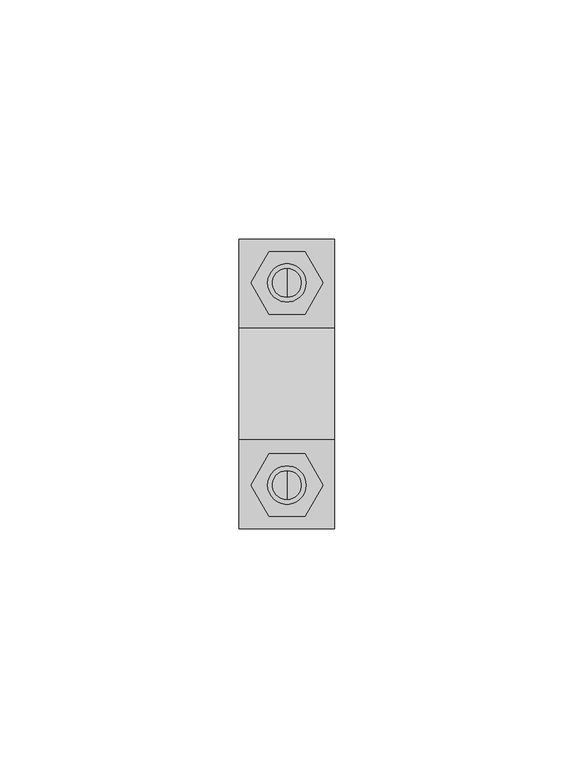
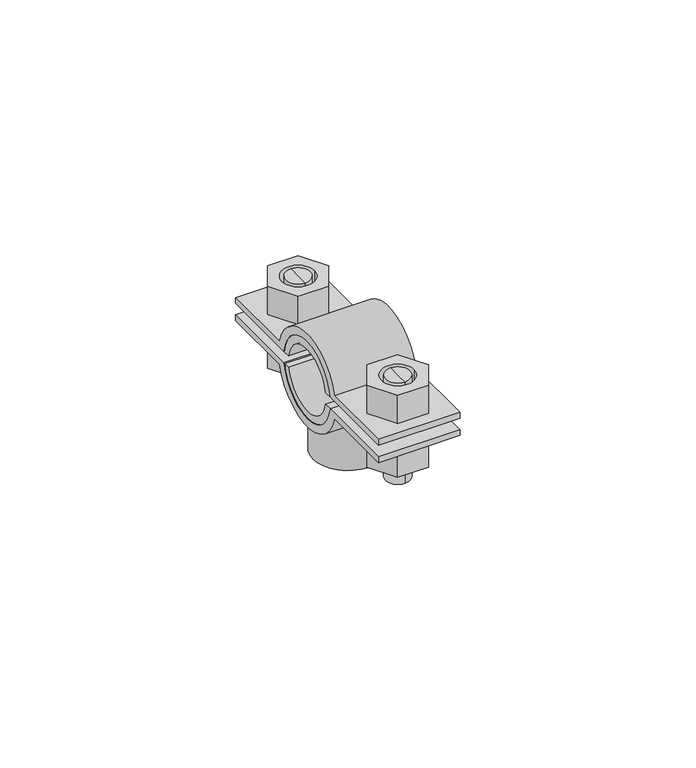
"""IFC4 building model written with IfcOpenShell, lengths in millimetres: valve geometry, Superfix DG2 Clamp Extra + : Superfix DG2 Clamp Extra +."""

import ifcopenshell
import ifcopenshell.guid

model = None  # the IFC model being written
_history = None  # IfcOwnerHistory: only IFC2X3 demands one
_inside = {}  # id of a spatial element -> (the spatial element, [elements in it])
_under = {}  # id of a project, library or spatial element -> (it, [spatial elements below it])
_declared = {}  # id of a project -> (the project, [libraries it declares])
_typed = {}  # id of a type object -> (the type object, [elements of that type])
_made_of = {}  # id of a material, layer set ... -> (it, [elements and type objects made of it])


def new_model(schema):
    """Start an empty IFC model of exactly this schema.

    Asked for "IFC4X3", IfcOpenShell would pick the latest addendum, in which some entities
    have other attributes; the version numbers below select the first issue.
    IFC2X3 requires an IfcOwnerHistory on every rooted entity: one is made here for all.
    """
    global model, _history
    if schema == "IFC4X3":
        model = ifcopenshell.file(schema_version=(4, 3, 0, 0))
    else:
        model = ifcopenshell.file(schema=schema)
    _inside.clear()
    _under.clear()
    _declared.clear()
    _typed.clear()
    _made_of.clear()
    _history = None
    if model.schema == "IFC2X3":
        org = make("IfcOrganization", Name="unknown")
        user = make(
            "IfcPersonAndOrganization",
            ThePerson=make("IfcPerson", FamilyName="unknown"),
            TheOrganization=org,
        )
        app = make(
            "IfcApplication",
            ApplicationDeveloper=org,
            Version="unknown",
            ApplicationFullName="unknown",
            ApplicationIdentifier="unknown",
        )
        _history = make(
            "IfcOwnerHistory",
            OwningUser=user,
            OwningApplication=app,
            ChangeAction="ADDED",
            CreationDate=0,
        )
    return model


def make(cls, **values):
    """One entity of the class cls with the attributes given. An attribute that is None is left unset."""
    return model.create_entity(
        cls, **{name: value for name, value in values.items() if value is not None}
    )


def rooted(cls, **values):
    """An entity with a GlobalId (a new one), such as an element, a storey or a relation."""
    return make(cls, GlobalId=ifcopenshell.guid.new(), OwnerHistory=_history, **values)


def si_unit(unit_type, name, prefix=None):
    """IfcSIUnit, for example si_unit("LENGTHUNIT", "METRE", prefix="MILLI")."""
    return make("IfcSIUnit", UnitType=unit_type, Prefix=prefix, Name=name)


def assignment(units):
    """IfcUnitAssignment: the units of a project."""
    return None if units is None else make("IfcUnitAssignment", Units=units)


def point(xyz):
    """IfcCartesianPoint."""
    return None if xyz is None else make("IfcCartesianPoint", Coordinates=xyz)


def direction(xyz):
    """IfcDirection."""
    return None if xyz is None else make("IfcDirection", DirectionRatios=xyz)


def frame(location, z_axis=None, x_axis=None):
    """IfcAxis2Placement3D, a coordinate frame: its origin and axes. An axis left out is left unset."""
    return make(
        "IfcAxis2Placement3D",
        Location=point(location),
        Axis=direction(z_axis),
        RefDirection=direction(x_axis),
    )


def frame_2d(location, x_axis=None):
    """IfcAxis2Placement2D, a coordinate frame in the plane: its origin and x axis."""
    return make(
        "IfcAxis2Placement2D", Location=point(location), RefDirection=direction(x_axis)
    )


def origin():
    """The frame at (0, 0, 0) with its axes left unset."""
    return frame((0.0, 0.0, 0.0))


def origin_2d():
    """The frame at (0, 0) in the plane with its x axis left unset."""
    return frame_2d((0.0, 0.0))


def place(relative_to, where):
    """IfcLocalPlacement: puts the frame where relative to a parent placement (None: the world)."""
    return make(
        "IfcLocalPlacement", PlacementRelTo=relative_to, RelativePlacement=where
    )


def context(
    kind, dimensions, precision=None, world=None, true_north=None, identifier=None
):
    """IfcGeometricRepresentationContext, for example the 3D "Model" context."""
    return make(
        "IfcGeometricRepresentationContext",
        ContextIdentifier=identifier,
        ContextType=kind,
        CoordinateSpaceDimension=dimensions,
        Precision=precision,
        WorldCoordinateSystem=world,
        TrueNorth=true_north,
    )


def project(units=None, contexts=None):
    """IfcProject with its units and contexts."""
    return rooted(
        "IfcProject",
        Name="project",
        RepresentationContexts=contexts,
        UnitsInContext=assignment(units),
    )


def spatial(cls, under=None, at=None, **own):
    """A site, building, storey or space (cls), placed at a placement, below another one or the project."""
    s = rooted(cls, ObjectPlacement=at, **own)
    if under is not None:
        _under.setdefault(under.id(), (under, []))[1].append(s)
    return s


def polyline(points):
    """IfcPolyline through the points."""
    return make("IfcPolyline", Points=[point(p) for p in points])


def circle_curve(where, radius):
    """IfcCircle in the frame where."""
    return make("IfcCircle", Position=where, Radius=radius)


def trimmed(basis, trim1, trim2, sense, master):
    """IfcTrimmedCurve: the piece of a basis curve between two trims."""
    return make(
        "IfcTrimmedCurve",
        BasisCurve=basis,
        Trim1=trim1,
        Trim2=trim2,
        SenseAgreement=sense,
        MasterRepresentation=master,
    )


def segment(curve, same_sense, transition):
    """IfcCompositeCurveSegment."""
    return make(
        "IfcCompositeCurveSegment",
        Transition=transition,
        SameSense=same_sense,
        ParentCurve=curve,
    )


def composite_curve(segments, self_intersect=None):
    """IfcCompositeCurve: segments joined end to end."""
    return make("IfcCompositeCurve", Segments=segments, SelfIntersect=self_intersect)


def outline(outer, holes=None, kind="AREA"):
    """IfcArbitraryClosedProfileDef: a profile drawn as a closed curve; with holes, ...WithVoids."""
    if holes is None:
        return make("IfcArbitraryClosedProfileDef", ProfileType=kind, OuterCurve=outer)
    return make(
        "IfcArbitraryProfileDefWithVoids",
        ProfileType=kind,
        OuterCurve=outer,
        InnerCurves=holes,
    )


def extrude(swept, where, along, depth):
    """IfcExtrudedAreaSolid: the profile swept, set in the frame where, extruded along a direction by depth."""
    return make(
        "IfcExtrudedAreaSolid",
        SweptArea=swept,
        Position=where,
        ExtrudedDirection=direction(along),
        Depth=depth,
    )


def shape(context_of_items, identifier, shape_type, items):
    """IfcShapeRepresentation: the items that make up one representation, for example the "Body"."""
    return make(
        "IfcShapeRepresentation",
        ContextOfItems=context_of_items,
        RepresentationIdentifier=identifier,
        RepresentationType=shape_type,
        Items=items,
    )


def source(mapping_origin, context_of_items, identifier, shape_type, items):
    """IfcRepresentationMap: a shape defined once, which mapped items show again and again."""
    return make(
        "IfcRepresentationMap",
        MappingOrigin=mapping_origin,
        MappedRepresentation=shape(context_of_items, identifier, shape_type, items),
    )


def transform(
    local_origin,
    x_axis=None,
    y_axis=None,
    z_axis=None,
    scale=None,
    scale2=None,
    scale3=None,
    uniform=True,
):
    """IfcCartesianTransformationOperator3D, or its non-uniform kind. x_axis, y_axis, z_axis: its Axis1, 2, 3."""
    if uniform:
        return make(
            "IfcCartesianTransformationOperator3D",
            Axis1=direction(x_axis),
            Axis2=direction(y_axis),
            LocalOrigin=point(local_origin),
            Scale=scale,
            Axis3=direction(z_axis),
        )
    return make(
        "IfcCartesianTransformationOperator3DnonUniform",
        Axis1=direction(x_axis),
        Axis2=direction(y_axis),
        LocalOrigin=point(local_origin),
        Scale=scale,
        Axis3=direction(z_axis),
        Scale2=scale2,
        Scale3=scale3,
    )


def mapped(mapping_source, mapping_target):
    """IfcMappedItem: shows the shape of a source again, moved by a transform."""
    return make(
        "IfcMappedItem", MappingSource=mapping_source, MappingTarget=mapping_target
    )


def made_of(thing, what):
    """Note that an element or type object is made of a material, layer set ...; save() writes the relation."""
    if what is not None:
        _made_of.setdefault(what.id(), (what, []))[1].append(thing)
    return thing


def element(
    cls,
    number,
    at=None,
    inside=None,
    cuts=None,
    type_object=None,
    material=None,
    context=None,
    identifier="Body",
    shape_type=None,
    held_by="IfcProductDefinitionShape",
    body=None,
    shapes=None,
    **own,
):
    """One element of the class cls, such as IfcWall. Its Tag is "e" and its number.

    at: its placement. inside: the storey or other place that contains it. cuts: it is an
    opening in that element (IfcRelVoidsElement). A single representation is given by context,
    identifier, shape_type and body (its items); several are given by shapes. held_by: the class
    of the entity that holds the representations. save() writes the other relations.
    """
    e = rooted(cls, Tag="e%d" % number, ObjectPlacement=at, **own)
    if body is not None:
        shapes = [shape(context, identifier, shape_type, body)]
    if shapes is not None:
        e.Representation = make(held_by, Representations=shapes)
    if inside is not None:
        _inside.setdefault(inside.id(), (inside, []))[1].append(e)
    if cuts is not None:
        rooted(
            "IfcRelVoidsElement", RelatingBuildingElement=cuts, RelatedOpeningElement=e
        )
    if type_object is not None:
        _typed.setdefault(type_object.id(), (type_object, []))[1].append(e)
    return made_of(e, material)


def aggregate(whole, parts):
    """IfcRelAggregates: a whole, such as a stair, and the parts it consists of."""
    return rooted("IfcRelAggregates", RelatingObject=whole, RelatedObjects=parts)


def save(model, path):
    """Write the relations noted so far, then the file.

    IfcRelAggregates (storeys below a building ...), IfcRelContainedInSpatialStructure (elements
    in a storey), IfcRelDefinesByType, IfcRelAssociatesMaterial and IfcRelDeclares: one each for
    every whole, place, type object, material and project.
    """
    for whole, parts in _under.values():
        aggregate(whole, parts)
    for where, things in _inside.values():
        rooted(
            "IfcRelContainedInSpatialStructure",
            RelatedElements=things,
            RelatingStructure=where,
        )
    for kind, things in _typed.values():
        rooted("IfcRelDefinesByType", RelatedObjects=things, RelatingType=kind)
    for what, things in _made_of.values():
        rooted("IfcRelAssociatesMaterial", RelatedObjects=things, RelatingMaterial=what)
    for by, libraries in _declared.values():
        rooted("IfcRelDeclares", RelatingContext=by, RelatedDefinitions=libraries)
    model.write(path)


def plane_surface(at):
    """IfcPlane: the flat surface through the origin of the frame at, square to its z axis."""
    return make("IfcPlane", Position=at)


def cylinder_surface(at, radius):
    """IfcCylindricalSurface: all points at the distance radius from the z axis of the frame at."""
    return make("IfcCylindricalSurface", Position=at, Radius=radius)


def advanced_brep(points, edges, surfaces, faces):
    """IfcAdvancedBrep: a solid bounded by faces that lie on surfaces and meet in shared edges.

    An edge is (start, end): straight between two places in points (the first is 0);
    or (start, end, curve); or (start, end, curve, False) where it runs against its curve.
    A face is (place in surfaces, loops), or (place, loops, False) where it looks against
    its surface's normal. A loop lists edges by number (the first is 1), with a minus sign
    where the edge is run from its end to its start. The first loop is the outer one.
    """
    corners = [point(p) for p in points]
    vertices = [make("IfcVertexPoint", VertexGeometry=c) for c in corners]
    made = []
    for start, end, *more in edges:
        made.append(
            make(
                "IfcEdgeCurve",
                EdgeStart=vertices[start],
                EdgeEnd=vertices[end],
                EdgeGeometry=more[0] if more else make("IfcPolyline", Points=[corners[start], corners[end]]),
                SameSense=more[1] if len(more) > 1 else True,
            )
        )
    hull = []
    for where, loops, *sense in faces:
        bounds = []
        for j, loop in enumerate(loops):
            ring = [make("IfcOrientedEdge", EdgeElement=made[abs(k) - 1], Orientation=k > 0) for k in loop]
            bounds.append(
                make(
                    "IfcFaceOuterBound" if j == 0 else "IfcFaceBound",
                    Bound=make("IfcEdgeLoop", EdgeList=ring),
                    Orientation=True,
                )
            )
        hull.append(make("IfcAdvancedFace", Bounds=bounds, FaceSurface=surfaces[where], SameSense=sense[0] if sense else True))
    return make("IfcAdvancedBrep", Outer=make("IfcClosedShell", CfsFaces=hull))


def valve_dc9e7541(model_context):
    return source(origin(), model_context, "Body", "SolidModel", [
        advanced_brep(
        [(0.0, 24.125, 334.4), (0.0, 18.125, 334.4), (0.0, 18.125, 348.5), (0.0, 24.125, 348.5), (0.0, 21.125, 334.4)],
        [
            (0, 1, circle_curve(frame((0.0, 21.125, 334.4), z_axis=(0.0, 0.0, 1.0), x_axis=(0.0, 1.0, 0.0)), 3.0)),
            (1, 2),
            (2, 3, circle_curve(frame((0.0, 21.125, 348.5), z_axis=(0.0, 0.0, -1.0), x_axis=(0.0, 1.0, 0.0)), 3.0)),
            (3, 0),
            (1, 0, circle_curve(frame((0.0, 21.125, 334.4), z_axis=(0.0, 0.0, 1.0), x_axis=(0.0, 1.0, 0.0)), 3.0)),
            (3, 2, circle_curve(frame((0.0, 21.125, 348.5), z_axis=(0.0, 0.0, -1.0), x_axis=(0.0, 1.0, 0.0)), 3.0)),
            (0, 4),
            (4, 1),
        ],
        [
            cylinder_surface(frame((0.0, 21.125, 348.2806094), z_axis=(0.0, 0.0, 1.0), x_axis=(0.0, 1.0, 0.0)), 3.0),
            plane_surface(frame((0.0, 21.125, 334.4), z_axis=(0.0, 0.0, -1.0), x_axis=(0.0, 1.0, 0.0))),
            plane_surface(frame((13.75, -30.25, 348.5), z_axis=(0.0, 0.0, 1.0), x_axis=(-1.0, 0.0, 0.0))),
        ],
        [
            (0, [[1, 2, 3, 4]]),
            (0, [[5, -4, 6, -2]]),
            (1, [[-1, 7, 8]]),
            (1, [[-5, -8, -7]]),
            (2, [[-3, -6]]),
        ],
    ),
        advanced_brep(
        [(0.0, 18.125, 360.6), (0.0, 24.125, 360.6), (0.0, 24.125, 351.5), (0.0, 18.125, 351.5), (0.0, 21.125, 360.6)],
        [
            (0, 1, circle_curve(frame((0.0, 21.125, 360.6), z_axis=(0.0, 0.0, -1.0), x_axis=(0.0, 1.0, 0.0)), 3.0)),
            (1, 2),
            (2, 3, circle_curve(frame((0.0, 21.125, 351.5), z_axis=(0.0, 0.0, 1.0), x_axis=(0.0, 1.0, 0.0)), 3.0)),
            (3, 0),
            (1, 0, circle_curve(frame((0.0, 21.125, 360.6), z_axis=(0.0, 0.0, -1.0), x_axis=(0.0, 1.0, 0.0)), 3.0)),
            (3, 2, circle_curve(frame((0.0, 21.125, 351.5), z_axis=(0.0, 0.0, 1.0), x_axis=(0.0, 1.0, 0.0)), 3.0)),
            (0, 4),
            (4, 1),
        ],
        [
            cylinder_surface(frame((0.0, 21.125, 348.2806094), z_axis=(0.0, 0.0, 1.0), x_axis=(0.0, 1.0, 0.0)), 3.0),
            plane_surface(frame((0.0, 21.125, 360.6), z_axis=(0.0, 0.0, 1.0), x_axis=(0.0, 1.0, 0.0))),
            plane_surface(frame((13.75, 30.25, 351.5), z_axis=(0.0, 0.0, -1.0), x_axis=(-1.0, 0.0, 0.0))),
        ],
        [
            (0, [[1, 2, 3, 4]]),
            (0, [[5, -4, 6, -2]]),
            (1, [[-1, 7, 8]]),
            (1, [[-5, -8, -7]]),
            (2, [[-3, -6]]),
        ],
    ),
        advanced_brep(
        [(0.0, -24.125, 360.6), (0.0, -18.125, 360.6), (0.0, -18.125, 351.5), (0.0, -24.125, 351.5), (0.0, -21.125, 360.6)],
        [
            (0, 1, circle_curve(frame((0.0, -21.125, 360.6), z_axis=(0.0, 0.0, -1.0), x_axis=(0.0, -1.0, 0.0)), 3.0)),
            (1, 2),
            (2, 3, circle_curve(frame((0.0, -21.125, 351.5), z_axis=(0.0, 0.0, 1.0), x_axis=(0.0, -1.0, 0.0)), 3.0)),
            (3, 0),
            (1, 0, circle_curve(frame((0.0, -21.125, 360.6), z_axis=(0.0, 0.0, -1.0), x_axis=(0.0, -1.0, 0.0)), 3.0)),
            (3, 2, circle_curve(frame((0.0, -21.125, 351.5), z_axis=(0.0, 0.0, 1.0), x_axis=(0.0, -1.0, 0.0)), 3.0)),
            (0, 4),
            (4, 1),
        ],
        [
            cylinder_surface(frame((0.0, -21.125, 348.2806094), z_axis=(0.0, 0.0, -1.0), x_axis=(0.0, -1.0, 0.0)), 3.0),
            plane_surface(frame((0.0, -21.125, 360.6), z_axis=(0.0, 0.0, 1.0), x_axis=(0.0, -1.0, 0.0))),
            plane_surface(frame((13.75, 30.25, 351.5), z_axis=(0.0, 0.0, -1.0), x_axis=(-1.0, 0.0, 0.0))),
        ],
        [
            (0, [[1, 2, 3, 4]]),
            (0, [[5, -4, 6, -2]]),
            (1, [[-1, 7, 8]]),
            (1, [[-5, -8, -7]]),
            (2, [[-3, -6]]),
        ],
    ),
        advanced_brep(
        [(0.0, -18.125, 334.4), (0.0, -24.125, 334.4), (0.0, -24.125, 348.5), (0.0, -18.125, 348.5), (0.0, -21.125, 334.4)],
        [
            (0, 1, circle_curve(frame((0.0, -21.125, 334.4), z_axis=(0.0, 0.0, 1.0), x_axis=(0.0, -1.0, 0.0)), 3.0)),
            (1, 2),
            (2, 3, circle_curve(frame((0.0, -21.125, 348.5), z_axis=(0.0, 0.0, -1.0), x_axis=(0.0, -1.0, 0.0)), 3.0)),
            (3, 0),
            (1, 0, circle_curve(frame((0.0, -21.125, 334.4), z_axis=(0.0, 0.0, 1.0), x_axis=(0.0, -1.0, 0.0)), 3.0)),
            (3, 2, circle_curve(frame((0.0, -21.125, 348.5), z_axis=(0.0, 0.0, -1.0), x_axis=(0.0, -1.0, 0.0)), 3.0)),
            (0, 4),
            (4, 1),
        ],
        [
            cylinder_surface(frame((0.0, -21.125, 348.2806094), z_axis=(0.0, 0.0, -1.0), x_axis=(0.0, -1.0, 0.0)), 3.0),
            plane_surface(frame((0.0, -21.125, 334.4), z_axis=(0.0, 0.0, -1.0), x_axis=(0.0, -1.0, 0.0))),
            plane_surface(frame((13.75, -30.25, 348.5), z_axis=(0.0, 0.0, 1.0), x_axis=(-1.0, 0.0, 0.0))),
        ],
        [
            (0, [[1, 2, 3, 4]]),
            (0, [[5, -4, 6, -2]]),
            (1, [[-1, 7, 8]]),
            (1, [[-5, -8, -7]]),
            (2, [[-3, -6]]),
        ],
    ),
        extrude(outline(composite_curve([segment(trimmed(circle_curve(frame_2d((0.0, 350.0)), 10.0), [point((-9.88686, 348.5))], [point((9.88686, 348.5))], True, "CARTESIAN"), True, "CONTINUOUS"), segment(polyline([(9.88686, 348.5), (30.25, 348.5), (30.25, 347.0), (11.61895, 347.0)]), True, "CONTINUOUS"), segment(trimmed(circle_curve(frame_2d((0.0, 350.0)), 12.0), [point((11.61895, 347.0))], [point((-11.61895, 347.0))], False, "CARTESIAN"), True, "CONTINUOUS"), segment(polyline([(-11.61895, 347.0), (-30.25, 347.0), (-30.25, 348.5), (-9.88686, 348.5)]), True, "CONTINUOUS")], self_intersect=False)), frame((-10.0, 0.0, 0.0), z_axis=(1.0, 0.0, 0.0), x_axis=(0.0, 1.0, 0.0)), (0.0, 0.0, 1.0), 20.0),
        extrude(outline(composite_curve([segment(trimmed(circle_curve(frame_2d((0.0, 350.0)), 10.0), [point((9.88686, 351.5))], [point((-9.88686, 351.5))], True, "CARTESIAN"), True, "CONTINUOUS"), segment(polyline([(-9.88686, 351.5), (-30.25, 351.5), (-30.25, 353.0), (-11.61895, 353.0)]), True, "CONTINUOUS"), segment(trimmed(circle_curve(frame_2d((0.0, 350.0)), 12.0), [point((-11.61895, 353.0))], [point((11.61895, 353.0))], False, "CARTESIAN"), True, "CONTINUOUS"), segment(polyline([(11.61895, 353.0), (30.25, 353.0), (30.25, 351.5), (9.88686, 351.5)]), True, "CONTINUOUS")], self_intersect=False)), frame((-10.0, 0.0, 0.0), z_axis=(1.0, 0.0, 0.0), x_axis=(0.0, 1.0, 0.0)), (0.0, 0.0, 1.0), 20.0),
        extrude(outline(polyline([(7.5055535, -21.125), (3.7527767, -27.625), (-3.7527767, -27.625), (-7.5055535, -21.125), (-3.7527767, -14.625), (3.7527767, -14.625), (7.5055535, -21.125)]), holes=[composite_curve([segment(trimmed(circle_curve(frame_2d((0.0, -21.125)), 4.0), [point((4.0, -21.125))], [point((-4.0, -21.125))], True, "CARTESIAN"), True, "CONTINUOUS"), segment(trimmed(circle_curve(frame_2d((0.0, -21.125)), 4.0), [point((-4.0, -21.125))], [point((4.0, -21.125))], True, "CARTESIAN"), True, "CONTINUOUS")], self_intersect=False)]), frame((0.0, 0.0, 353.0), z_axis=(0.0, 0.0, 1.0), x_axis=(1.0, 0.0, 0.0)), (0.0, 0.0, 1.0), 7.6),
        extrude(outline(polyline([(7.5055535, 21.125), (3.7527767, 14.625), (-3.7527767, 14.625), (-7.5055535, 21.125), (-3.7527767, 27.625), (3.7527767, 27.625), (7.5055535, 21.125)]), holes=[composite_curve([segment(trimmed(circle_curve(frame_2d((0.0, 21.125)), 4.0), [point((4.0, 21.125))], [point((-4.0, 21.125))], True, "CARTESIAN"), True, "CONTINUOUS"), segment(trimmed(circle_curve(frame_2d((0.0, 21.125)), 4.0), [point((-4.0, 21.125))], [point((4.0, 21.125))], True, "CARTESIAN"), True, "CONTINUOUS")], self_intersect=False)]), frame((0.0, 0.0, 353.0), z_axis=(0.0, 0.0, 1.0), x_axis=(1.0, 0.0, 0.0)), (0.0, 0.0, 1.0), 7.6),
        extrude(outline(polyline([(7.5055535, -21.125), (3.7527767, -27.625), (-3.7527767, -27.625), (-7.5055535, -21.125), (-3.7527767, -14.625), (3.7527767, -14.625), (7.5055535, -21.125)]), holes=[composite_curve([segment(trimmed(circle_curve(frame_2d((0.0, -21.125)), 4.0), [point((4.0, -21.125))], [point((-4.0, -21.125))], True, "CARTESIAN"), True, "CONTINUOUS"), segment(trimmed(circle_curve(frame_2d((0.0, -21.125)), 4.0), [point((-4.0, -21.125))], [point((4.0, -21.125))], True, "CARTESIAN"), True, "CONTINUOUS")], self_intersect=False)]), frame((0.0, 0.0, 339.4), z_axis=(0.0, 0.0, 1.0), x_axis=(1.0, 0.0, 0.0)), (0.0, 0.0, 1.0), 7.6),
        extrude(outline(polyline([(7.5055535, 21.125), (3.7527767, 14.625), (-3.7527767, 14.625), (-7.5055535, 21.125), (-3.7527767, 27.625), (3.7527767, 27.625), (7.5055535, 21.125)]), holes=[composite_curve([segment(trimmed(circle_curve(frame_2d((0.0, 21.125)), 4.0), [point((4.0, 21.125))], [point((-4.0, 21.125))], True, "CARTESIAN"), True, "CONTINUOUS"), segment(trimmed(circle_curve(frame_2d((0.0, 21.125)), 4.0), [point((-4.0, 21.125))], [point((4.0, 21.125))], True, "CARTESIAN"), True, "CONTINUOUS")], self_intersect=False)]), frame((0.0, 0.0, 339.4), z_axis=(0.0, 0.0, 1.0), x_axis=(1.0, 0.0, 0.0)), (0.0, 0.0, 1.0), 7.6),
        extrude(outline(composite_curve([segment(trimmed(circle_curve(origin_2d(), 8.5), [point((0.0, 8.5))], [point((0.0, -8.5))], False, "CARTESIAN"), True, "CONTINUOUS"), segment(trimmed(circle_curve(origin_2d(), 8.5), [point((0.0, -8.5))], [point((0.0, 8.5))], False, "CARTESIAN"), True, "CONTINUOUS")], self_intersect=False), holes=[composite_curve([segment(trimmed(circle_curve(origin_2d(), 5.0), [point((0.0, 5.0))], [point((0.0, -5.0))], True, "CARTESIAN"), True, "CONTINUOUS"), segment(trimmed(circle_curve(origin_2d(), 5.0), [point((0.0, -5.0))], [point((0.0, 5.0))], True, "CARTESIAN"), True, "CONTINUOUS")], self_intersect=False)]), frame((0.0, 0.0, 329.0), z_axis=(0.0, 0.0, 1.0), x_axis=(1.0, 0.0, 0.0)), (0.0, 0.0, 1.0), 11.5),
        extrude(outline(composite_curve([segment(trimmed(circle_curve(frame_2d((0.0, 350.0)), 8.0), [point((7.8581168, 351.5))], [point((-7.8581168, 351.5))], True, "CARTESIAN"), True, "CONTINUOUS"), segment(polyline([(-7.8581168, 351.5), (-9.88686, 351.5)]), True, "CONTINUOUS"), segment(trimmed(circle_curve(frame_2d((0.0, 350.0)), 10.0), [point((-9.88686, 351.5))], [point((9.88686, 351.5))], False, "CARTESIAN"), True, "CONTINUOUS"), segment(polyline([(9.88686, 351.5), (7.8581168, 351.5)]), True, "CONTINUOUS")], self_intersect=False)), frame((-10.0, 0.0, 0.0), z_axis=(1.0, 0.0, 0.0), x_axis=(0.0, 1.0, 0.0)), (0.0, 0.0, 1.0), 20.0),
        extrude(outline(composite_curve([segment(polyline([(7.8581168, 348.5), (9.88686, 348.5)]), True, "CONTINUOUS"), segment(trimmed(circle_curve(frame_2d((0.0, 350.0)), 10.0), [point((9.88686, 348.5))], [point((-9.88686, 348.5))], False, "CARTESIAN"), True, "CONTINUOUS"), segment(polyline([(-9.88686, 348.5), (-7.8581168, 348.5)]), True, "CONTINUOUS"), segment(trimmed(circle_curve(frame_2d((0.0, 350.0)), 8.0), [point((-7.8581168, 348.5))], [point((7.8581168, 348.5))], True, "CARTESIAN"), True, "CONTINUOUS")], self_intersect=False)), frame((-10.0, 0.0, 0.0), z_axis=(1.0, 0.0, 0.0), x_axis=(0.0, 1.0, 0.0)), (0.0, 0.0, 1.0), 20.0),
    ])


if __name__ == "__main__":
    model = new_model("IFC4")
    model_context = context("Model", 3, world=origin())
    ifc_project = project(units=[si_unit("LENGTHUNIT", "METRE", prefix="MILLI")], contexts=[model_context])
    site = spatial("IfcSite", under=ifc_project)
    building = spatial("IfcBuilding", under=site)
    placement = place(None, origin())
    valve_shape = valve_dc9e7541(model_context)
    element("IfcValve", 1, ObjectType="Superfix DG2 Clamp Extra + : Superfix DG2 Clamp Extra +", at=placement, inside=building, context=model_context, shape_type="MappedRepresentation", body=[
        mapped(valve_shape, transform((0.0, 0.0, 0.0), x_axis=(1.0, 0.0, 0.0), y_axis=(0.0, 1.0, 0.0), z_axis=(0.0, 0.0, 1.0))),
    ])
    save(model, "model.ifc")
